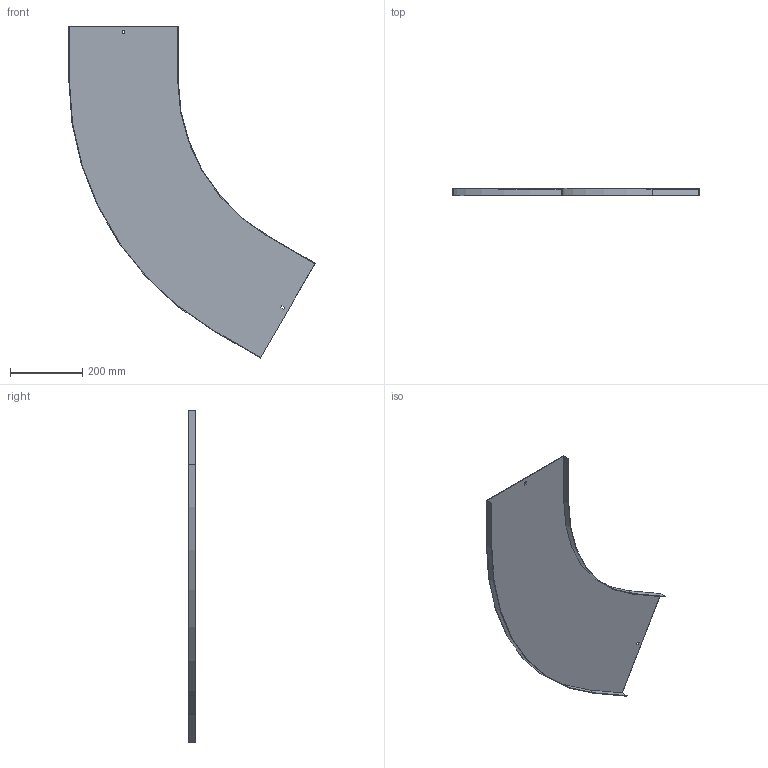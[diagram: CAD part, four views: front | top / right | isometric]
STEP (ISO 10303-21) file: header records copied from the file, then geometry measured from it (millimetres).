
FILE_DESCRIPTION (( 'STEP AP214' ), '1' );
FILE_NAME ('13N5R300.step', '2025-02-21T14:27:07', ( '' ), ( '' ), 'SwSTEP 2.0', 'SolidWorks 2023', '' );
FILE_SCHEMA (( 'AUTOMOTIVE_DESIGN' ));
Length unit declared in the file: millimetre
Products named in the file (1): 13N5R300
Bounding box: 682.15 x 20 x 919.12 mm (x, y, z)
Volume: 499970.5 mm3; surface area: 670682.4 mm2
Topology: 1 solids, 1 shells, 26 faces, 72 edges, 48 vertices
Faces by surface type: plane 22, cylinder 4
Entity records: 855 total; most frequent: CARTESIAN_POINT 147, ORIENTED_EDGE 144, DIRECTION 134, EDGE_CURVE 72, VECTOR 64, LINE 64, VERTEX_POINT 48, AXIS2_PLACEMENT_3D 35
